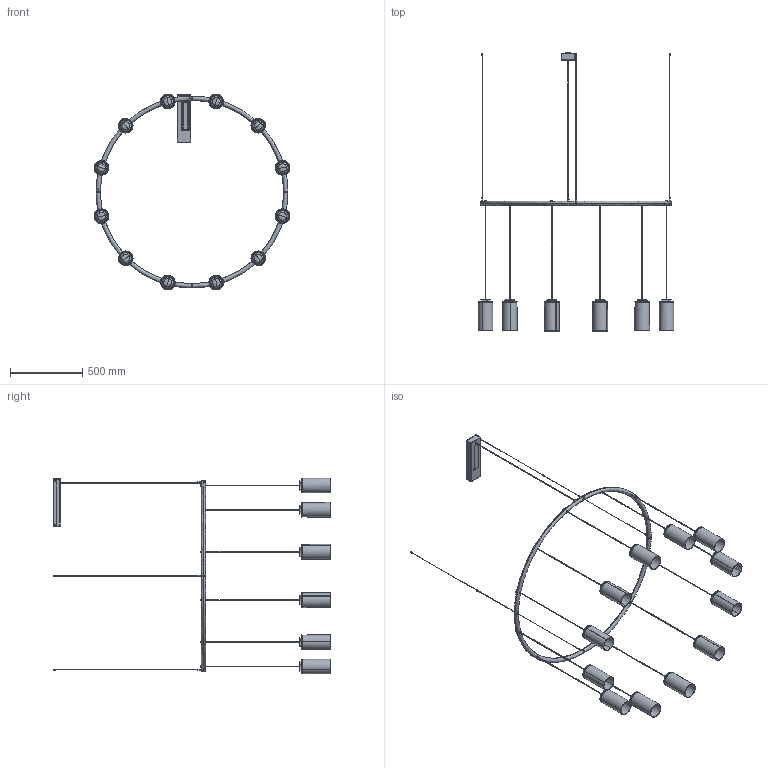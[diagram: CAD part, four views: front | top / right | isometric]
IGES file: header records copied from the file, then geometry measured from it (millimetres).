
Start section: SolidWorks IGES file using analytic representation for surfaces
Global section: file name: C:\SANTACOLE_PDM\Proyectos Catálogo\PROD-P09-021 -- Cirio\6_Tecnico comercial\3D\Cirio circular S\Cirio circular S Floron rectangular.IGS; native system: SolidWorks 2019; preprocessor: SolidWorks 2019; author: aina.morell; date: 200403.132055; units: millimetre
Bounding box: 1356.7 x 1926.71 x 1356.7 mm (x, y, z)
Surface area: 2665779.8 mm2 (no closed solid volume)
Topology: 0 solids, 0 shells, 2438 faces, 26811 edges, 26767 vertices
Faces by surface type: bspline 2291, revolution 147
